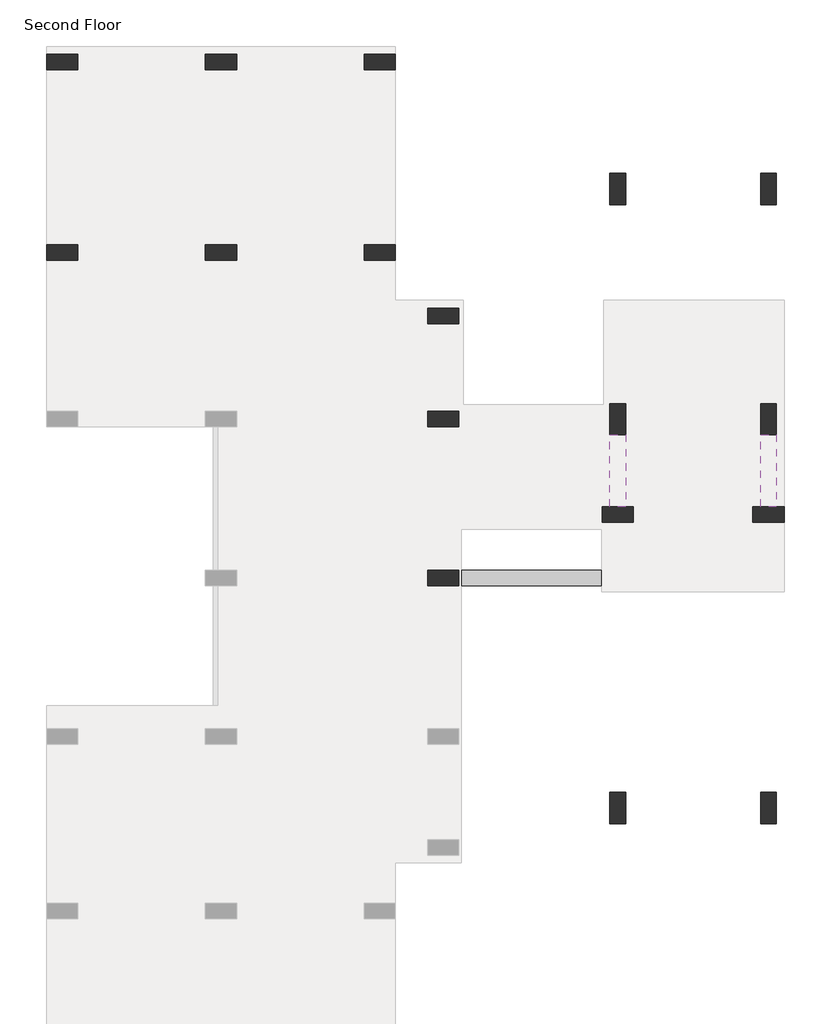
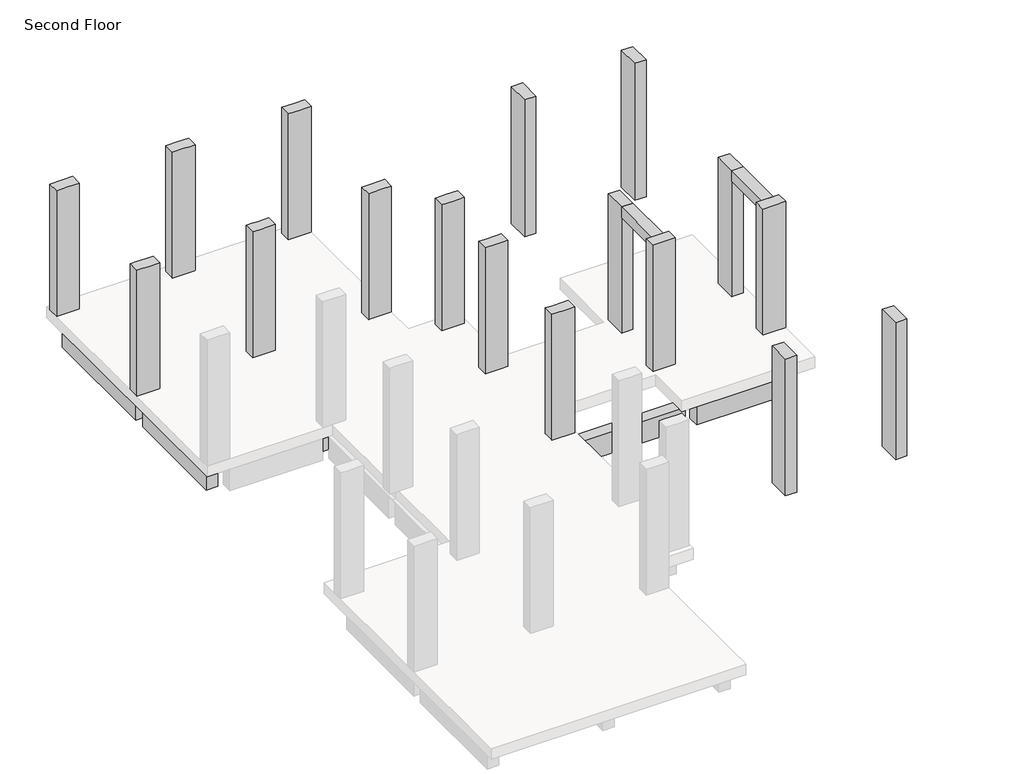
# One storey, part 2 of 2: 22 beams, 17 columns.
"""IFC4 building model written with IfcOpenShell, lengths in millimetres."""

import ifcopenshell
import ifcopenshell.guid

model = None  # the IFC model being written
_history = None  # IfcOwnerHistory: only IFC2X3 demands one
_inside = {}  # id of a spatial element -> (the spatial element, [elements in it])
_under = {}  # id of a project, library or spatial element -> (it, [spatial elements below it])
_declared = {}  # id of a project -> (the project, [libraries it declares])
_typed = {}  # id of a type object -> (the type object, [elements of that type])
_made_of = {}  # id of a material, layer set ... -> (it, [elements and type objects made of it])


def new_model(schema):
    """Start an empty IFC model of exactly this schema.

    Asked for "IFC4X3", IfcOpenShell would pick the latest addendum, in which some entities
    have other attributes; the version numbers below select the first issue.
    IFC2X3 requires an IfcOwnerHistory on every rooted entity: one is made here for all.
    """
    global model, _history
    if schema == "IFC4X3":
        model = ifcopenshell.file(schema_version=(4, 3, 0, 0))
    else:
        model = ifcopenshell.file(schema=schema)
    _inside.clear()
    _under.clear()
    _declared.clear()
    _typed.clear()
    _made_of.clear()
    _history = None
    if model.schema == "IFC2X3":
        org = make("IfcOrganization", Name="unknown")
        user = make(
            "IfcPersonAndOrganization",
            ThePerson=make("IfcPerson", FamilyName="unknown"),
            TheOrganization=org,
        )
        app = make(
            "IfcApplication",
            ApplicationDeveloper=org,
            Version="unknown",
            ApplicationFullName="unknown",
            ApplicationIdentifier="unknown",
        )
        _history = make(
            "IfcOwnerHistory",
            OwningUser=user,
            OwningApplication=app,
            ChangeAction="ADDED",
            CreationDate=0,
        )
    return model


def make(cls, **values):
    """One entity of the class cls with the attributes given. An attribute that is None is left unset."""
    return model.create_entity(
        cls, **{name: value for name, value in values.items() if value is not None}
    )


def rooted(cls, **values):
    """An entity with a GlobalId (a new one), such as an element, a storey or a relation."""
    return make(cls, GlobalId=ifcopenshell.guid.new(), OwnerHistory=_history, **values)


def si_unit(unit_type, name, prefix=None):
    """IfcSIUnit, for example si_unit("LENGTHUNIT", "METRE", prefix="MILLI")."""
    return make("IfcSIUnit", UnitType=unit_type, Prefix=prefix, Name=name)


def assignment(units):
    """IfcUnitAssignment: the units of a project."""
    return None if units is None else make("IfcUnitAssignment", Units=units)


def point(xyz):
    """IfcCartesianPoint."""
    return None if xyz is None else make("IfcCartesianPoint", Coordinates=xyz)


def direction(xyz):
    """IfcDirection."""
    return None if xyz is None else make("IfcDirection", DirectionRatios=xyz)


def frame(location, z_axis=None, x_axis=None):
    """IfcAxis2Placement3D, a coordinate frame: its origin and axes. An axis left out is left unset."""
    return make(
        "IfcAxis2Placement3D",
        Location=point(location),
        Axis=direction(z_axis),
        RefDirection=direction(x_axis),
    )


def origin():
    """The frame at (0, 0, 0) with its axes left unset."""
    return frame((0.0, 0.0, 0.0))


def place(relative_to, where):
    """IfcLocalPlacement: puts the frame where relative to a parent placement (None: the world)."""
    return make(
        "IfcLocalPlacement", PlacementRelTo=relative_to, RelativePlacement=where
    )


def context(
    kind, dimensions, precision=None, world=None, true_north=None, identifier=None
):
    """IfcGeometricRepresentationContext, for example the 3D "Model" context."""
    return make(
        "IfcGeometricRepresentationContext",
        ContextIdentifier=identifier,
        ContextType=kind,
        CoordinateSpaceDimension=dimensions,
        Precision=precision,
        WorldCoordinateSystem=world,
        TrueNorth=true_north,
    )


def project(units=None, contexts=None):
    """IfcProject with its units and contexts."""
    return rooted(
        "IfcProject",
        Name="project",
        RepresentationContexts=contexts,
        UnitsInContext=assignment(units),
    )


def spatial(cls, under=None, at=None, **own):
    """A site, building, storey or space (cls), placed at a placement, below another one or the project."""
    s = rooted(cls, ObjectPlacement=at, **own)
    if under is not None:
        _under.setdefault(under.id(), (under, []))[1].append(s)
    return s


def polyline(points):
    """IfcPolyline through the points."""
    return make("IfcPolyline", Points=[point(p) for p in points])


def outline(outer, holes=None, kind="AREA"):
    """IfcArbitraryClosedProfileDef: a profile drawn as a closed curve; with holes, ...WithVoids."""
    if holes is None:
        return make("IfcArbitraryClosedProfileDef", ProfileType=kind, OuterCurve=outer)
    return make(
        "IfcArbitraryProfileDefWithVoids",
        ProfileType=kind,
        OuterCurve=outer,
        InnerCurves=holes,
    )


def extrude(swept, where, along, depth):
    """IfcExtrudedAreaSolid: the profile swept, set in the frame where, extruded along a direction by depth."""
    return make(
        "IfcExtrudedAreaSolid",
        SweptArea=swept,
        Position=where,
        ExtrudedDirection=direction(along),
        Depth=depth,
    )


def faces_of(points, faces, orient=None, outer=None):
    """IfcFace entities. A face is a list of loops; a loop is a list of indices into points, from 0.

    orient and outer hold one flag for each loop. By default every Orientation is true, the
    first loop of a face is its IfcFaceOuterBound and the others are IfcFaceBound.
    """
    made = []
    for i, loops in enumerate(faces):
        bounds = []
        for j, loop in enumerate(loops):
            is_outer = j == 0 if outer is None else outer[i][j]
            bounds.append(
                make(
                    "IfcFaceOuterBound" if is_outer else "IfcFaceBound",
                    Bound=make("IfcPolyLoop", Polygon=[points[k] for k in loop]),
                    Orientation=True if orient is None else orient[i][j],
                )
            )
        made.append(make("IfcFace", Bounds=bounds))
    return made


def faceted_brep(points, faces, orient=None, outer=None, voids=None):
    """IfcFacetedBrep: a solid bounded by flat faces; with voids (closed shells), ...WithVoids."""
    shared = [point(p) for p in points]
    hull = make("IfcClosedShell", CfsFaces=faces_of(shared, faces, orient, outer))
    if voids is None:
        return make("IfcFacetedBrep", Outer=hull)
    return make(
        "IfcFacetedBrepWithVoids",
        Outer=hull,
        Voids=[
            make(cls, CfsFaces=faces_of(shared, fs, o, b)) for cls, fs, o, b in voids
        ],
    )


def shape(context_of_items, identifier, shape_type, items):
    """IfcShapeRepresentation: the items that make up one representation, for example the "Body"."""
    return make(
        "IfcShapeRepresentation",
        ContextOfItems=context_of_items,
        RepresentationIdentifier=identifier,
        RepresentationType=shape_type,
        Items=items,
    )


def made_of(thing, what):
    """Note that an element or type object is made of a material, layer set ...; save() writes the relation."""
    if what is not None:
        _made_of.setdefault(what.id(), (what, []))[1].append(thing)
    return thing


def element(
    cls,
    number,
    at=None,
    inside=None,
    cuts=None,
    type_object=None,
    material=None,
    context=None,
    identifier="Body",
    shape_type=None,
    held_by="IfcProductDefinitionShape",
    body=None,
    shapes=None,
    **own,
):
    """One element of the class cls, such as IfcWall. Its Tag is "e" and its number.

    at: its placement. inside: the storey or other place that contains it. cuts: it is an
    opening in that element (IfcRelVoidsElement). A single representation is given by context,
    identifier, shape_type and body (its items); several are given by shapes. held_by: the class
    of the entity that holds the representations. save() writes the other relations.
    """
    e = rooted(cls, Tag="e%d" % number, ObjectPlacement=at, **own)
    if body is not None:
        shapes = [shape(context, identifier, shape_type, body)]
    if shapes is not None:
        e.Representation = make(held_by, Representations=shapes)
    if inside is not None:
        _inside.setdefault(inside.id(), (inside, []))[1].append(e)
    if cuts is not None:
        rooted(
            "IfcRelVoidsElement", RelatingBuildingElement=cuts, RelatedOpeningElement=e
        )
    if type_object is not None:
        _typed.setdefault(type_object.id(), (type_object, []))[1].append(e)
    return made_of(e, material)


def aggregate(whole, parts):
    """IfcRelAggregates: a whole, such as a stair, and the parts it consists of."""
    return rooted("IfcRelAggregates", RelatingObject=whole, RelatedObjects=parts)


def save(model, path):
    """Write the relations noted so far, then the file.

    IfcRelAggregates (storeys below a building ...), IfcRelContainedInSpatialStructure (elements
    in a storey), IfcRelDefinesByType, IfcRelAssociatesMaterial and IfcRelDeclares: one each for
    every whole, place, type object, material and project.
    """
    for whole, parts in _under.values():
        aggregate(whole, parts)
    for where, things in _inside.values():
        rooted(
            "IfcRelContainedInSpatialStructure",
            RelatedElements=things,
            RelatingStructure=where,
        )
    for kind, things in _typed.values():
        rooted("IfcRelDefinesByType", RelatedObjects=things, RelatingType=kind)
    for what, things in _made_of.values():
        rooted("IfcRelAssociatesMaterial", RelatedObjects=things, RelatingMaterial=what)
    for by, libraries in _declared.values():
        rooted("IfcRelDeclares", RelatingContext=by, RelatedDefinitions=libraries)
    model.write(path)


model = new_model("IFC4")

# Units and contexts
model_context = context("Model", 3, world=origin())
ifc_project = project(units=[si_unit("LENGTHUNIT", "METRE", prefix="MILLI")], contexts=[model_context])

# Site, building, storey
site = spatial("IfcSite", under=ifc_project)
building = spatial("IfcBuilding", under=site)
storey = spatial("IfcBuildingStorey", under=building, Name="Second Floor", Elevation=3810.0)

# Beams
placement = place(None, origin())
element("IfcBeam", 1, ObjectType="M_Concrete-Rectangular Beam : 300 x 600mm", at=placement, inside=storey, context=model_context, shape_type="Brep", body=[
    faceted_brep([(-9783.3472303, 14876.016665, 3510.0), (-12831.3472303, 14876.016665, 3510.0), (-12831.3472303, 14726.016665, 3510.0), (-12831.3472303, 14576.016665, 3510.0), (-12681.3472303, 14576.016665, 3510.0), (-9933.3472303, 14576.016665, 3510.0), (-9783.3472303, 14576.016665, 3510.0), (-9783.3472303, 14726.016665, 3510.0), (-12831.3472303, 14576.016665, 3505.2), (-12531.3472303, 14576.016665, 3505.2), (-12531.3472303, 14576.016665, 2910.0), (-10083.3472303, 14576.016665, 2910.0), (-10083.3472303, 14576.016665, 3505.2), (-9783.3472303, 14576.016665, 3505.2), (-12531.3472303, 14876.016665, 2910.0), (-10083.3472303, 14876.016665, 2910.0), (-9783.3472303, 14876.016665, 3505.2), (-10083.3472303, 14876.016665, 3505.2), (-12531.3472303, 14876.016665, 3505.2), (-12831.3472303, 14876.016665, 3505.2), (-12831.3472303, 14726.016665, 3505.2), (-9783.3472303, 14726.016665, 3505.2)], [[[0, 1, 2, 3, 4, 5, 6, 7]], [[6, 5, 4, 3, 8, 9, 10, 11, 12, 13]], [[10, 14, 15, 11]], [[1, 0, 16, 17, 15, 14, 18, 19]], [[9, 18, 14, 10]], [[18, 9, 8, 20, 19]], [[17, 12, 11, 15]], [[12, 17, 16, 21, 13]], [[3, 2, 1, 19, 20, 8]], [[0, 7, 6, 13, 21, 16]]]),
])
element("IfcBeam", 2, ObjectType="M_Concrete-Rectangular Beam : 300 x 600mm", at=placement, inside=storey, context=model_context, shape_type="Brep", body=[
    faceted_brep([(-6735.3472303, 14876.016665, 3510.0), (-9783.3472303, 14876.016665, 3510.0), (-9783.3472303, 14726.016665, 3510.0), (-9633.3472303, 14726.016665, 3510.0), (-9633.3472303, 14576.016665, 3510.0), (-6885.3472303, 14576.016665, 3510.0), (-6735.3472303, 14576.016665, 3510.0), (-6735.3472303, 14726.016665, 3510.0), (-9483.3472303, 14576.016665, 3505.2), (-9483.3472303, 14576.016665, 2910.0), (-7035.3472303, 14576.016665, 2910.0), (-7035.3472303, 14576.016665, 3505.2), (-6735.3472303, 14576.016665, 3505.2), (-9633.3472303, 14576.016665, 3505.2), (-9483.3472303, 14876.016665, 2910.0), (-7035.3472303, 14876.016665, 2910.0), (-6735.3472303, 14876.016665, 3505.2), (-7035.3472303, 14876.016665, 3505.2), (-9483.3472303, 14876.016665, 3505.2), (-9783.3472303, 14876.016665, 3505.2), (-9633.3472303, 14726.016665, 3505.2), (-9783.3472303, 14726.016665, 3505.2), (-6735.3472303, 14726.016665, 3505.2)], [[[0, 1, 2, 3, 4, 5, 6, 7]], [[8, 9, 10, 11, 12, 6, 5, 4, 13]], [[9, 14, 15, 10]], [[1, 0, 16, 17, 15, 14, 18, 19]], [[8, 18, 14, 9]], [[18, 8, 13, 20, 21, 19]], [[17, 11, 10, 15]], [[11, 17, 16, 22, 12]], [[3, 20, 13, 4]], [[1, 19, 21, 2]], [[0, 7, 6, 12, 22, 16]], [[20, 3, 2, 21]]]),
])
element("IfcBeam", 3, ObjectType="M_Concrete-Rectangular Beam : 300 x 600mm", at=placement, inside=storey, context=model_context, shape_type="Brep", body=[
    faceted_brep([(-6585.3472303, 11069.016665, 3510.0), (-6585.3472303, 14726.016665, 3510.0), (-6735.3472303, 14726.016665, 3510.0), (-6735.3472303, 14576.016665, 3510.0), (-6885.3472303, 14576.016665, 3510.0), (-6885.3472303, 11219.016665, 3510.0), (-6885.3472303, 11069.016665, 3510.0), (-6735.3472303, 11069.016665, 3510.0), (-6885.3472303, 14576.016665, 2910.0), (-6885.3472303, 11219.016665, 2910.0), (-6885.3472303, 11219.016665, 3505.2), (-6885.3472303, 11069.016665, 3505.2), (-6585.3472303, 14576.016665, 2910.0), (-6585.3472303, 11219.016665, 2910.0), (-6585.3472303, 11069.016665, 3505.2), (-6585.3472303, 11219.016665, 3505.2), (-6585.3472303, 14576.016665, 3505.2), (-6585.3472303, 14726.016665, 3505.2), (-6735.3472303, 14576.016665, 3505.2), (-6735.3472303, 14726.016665, 3505.2), (-6735.3472303, 11069.016665, 3505.2)], [[[0, 1, 2, 3, 4, 5, 6, 7]], [[6, 5, 4, 8, 9, 10, 11]], [[8, 12, 13, 9]], [[1, 0, 14, 15, 13, 12, 16, 17]], [[4, 3, 18, 16, 12, 8]], [[16, 18, 19, 17]], [[15, 10, 9, 13]], [[10, 15, 14, 20, 11]], [[2, 1, 17, 19]], [[0, 7, 6, 11, 20, 14]], [[3, 2, 19, 18]]]),
])
element("IfcBeam", 4, ObjectType="M_Concrete-Rectangular Beam : 300 x 600mm", at=placement, inside=storey, context=model_context, shape_type="Brep", body=[
    faceted_brep([(-6585.3472303, 9700.016665, 3510.0), (-6585.3472303, 10000.016665, 3510.0), (-6585.3472303, 11069.016665, 3510.0), (-6735.3472303, 11069.016665, 3510.0), (-6735.3472303, 10919.016665, 3510.0), (-6885.3472303, 10919.016665, 3510.0), (-6885.3472303, 9700.016665, 3510.0), (-6885.3472303, 9700.016665, 2910.0), (-6885.3472303, 10919.016665, 2910.0), (-6585.3472303, 9700.016665, 2910.0), (-6585.3472303, 10919.016665, 2910.0), (-6585.3472303, 10000.016665, 2910.0), (-6585.3472303, 10919.016665, 3505.2), (-6585.3472303, 11069.016665, 3505.2), (-6735.3472303, 11069.016665, 3505.2), (-6735.3472303, 10919.016665, 3505.2)], [[[0, 1, 2, 3, 4, 5, 6]], [[7, 6, 5, 8]], [[9, 7, 8, 10, 11]], [[2, 1, 0, 9, 11, 10, 12, 13]], [[2, 13, 14, 3]], [[0, 6, 7, 9]], [[5, 4, 15, 12, 10, 8]], [[13, 12, 15, 14]], [[15, 4, 3, 14]]]),
])
element("IfcBeam", 5, ObjectType="M_Concrete-Rectangular Beam : 300 x 600mm", at=placement, inside=storey, context=model_context, shape_type="Brep", body=[
    faceted_brep([(-6585.3472303, 10000.016665, 3510.0), (-6585.3472303, 9700.016665, 3510.0), (-5666.3472303, 9700.016665, 3510.0), (-5516.3472303, 9700.016665, 3510.0), (-5516.3472303, 9850.016665, 3510.0), (-5516.3472303, 10000.016665, 3510.0), (-6585.3472303, 9700.016665, 2910.0), (-5816.3472303, 9700.016665, 2910.0), (-5816.3472303, 9700.016665, 3505.2), (-5516.3472303, 9700.016665, 3505.2), (-6585.3472303, 10000.016665, 2910.0), (-5816.3472303, 10000.016665, 2910.0), (-5516.3472303, 10000.016665, 3505.2), (-5816.3472303, 10000.016665, 3505.2), (-5516.3472303, 9850.016665, 3505.2)], [[[0, 1, 2, 3, 4, 5]], [[3, 2, 1, 6, 7, 8, 9]], [[6, 10, 11, 7]], [[10, 0, 5, 12, 13, 11]], [[1, 0, 10, 6]], [[13, 8, 7, 11]], [[8, 13, 12, 14, 9]], [[5, 4, 3, 9, 14, 12]]]),
])
element("IfcBeam", 6, ObjectType="M_Concrete-Rectangular Beam : 300 x 600mm", at=placement, inside=storey, context=model_context, shape_type="Brep", body=[
    faceted_brep([(-5366.3472303, 7869.016665, 3510.0), (-5366.3472303, 8019.016665, 3510.0), (-5366.3472303, 9850.016665, 3510.0), (-5516.3472303, 9850.016665, 3510.0), (-5516.3472303, 9700.016665, 3510.0), (-5666.3472303, 9700.016665, 3510.0), (-5666.3472303, 8019.016665, 3510.0), (-5666.3472303, 7869.016665, 3510.0), (-5516.3472303, 7869.016665, 3510.0), (-5666.3472303, 9700.016665, 2910.0), (-5666.3472303, 8019.016665, 2910.0), (-5666.3472303, 8019.016665, 3505.2), (-5666.3472303, 7869.016665, 3505.2), (-5366.3472303, 9700.016665, 2910.0), (-5366.3472303, 8019.016665, 2910.0), (-5366.3472303, 7869.016665, 3505.2), (-5366.3472303, 8019.016665, 3505.2), (-5366.3472303, 9700.016665, 3505.2), (-5366.3472303, 9850.016665, 3505.2), (-5516.3472303, 9700.016665, 3505.2), (-5516.3472303, 9850.016665, 3505.2), (-5516.3472303, 7869.016665, 3505.2)], [[[0, 1, 2, 3, 4, 5, 6, 7, 8]], [[7, 6, 5, 9, 10, 11, 12]], [[9, 13, 14, 10]], [[2, 1, 0, 15, 16, 14, 13, 17, 18]], [[5, 4, 19, 17, 13, 9]], [[17, 19, 20, 18]], [[16, 11, 10, 14]], [[11, 16, 15, 21, 12]], [[3, 2, 18, 20]], [[0, 8, 7, 12, 21, 15]], [[4, 3, 20, 19]]]),
])
element("IfcBeam", 7, ObjectType="M_Concrete-Rectangular Beam : 300 x 600mm", at=placement, inside=storey, context=model_context, shape_type="Brep", body=[
    faceted_brep([(-5366.3472303, 4821.016665, 3510.0), (-5366.3472303, 4971.016665, 3510.0), (-5366.3472303, 7719.016665, 3510.0), (-5366.3472303, 7869.016665, 3510.0), (-5516.3472303, 7869.016665, 3510.0), (-5516.3472303, 7719.016665, 3510.0), (-5666.3472303, 7719.016665, 3510.0), (-5666.3472303, 4971.016665, 3510.0), (-5666.3472303, 4821.016665, 3510.0), (-5516.3472303, 4821.016665, 3510.0), (-5666.3472303, 4971.016665, 2910.0), (-5666.3472303, 4971.016665, 3505.2), (-5666.3472303, 4821.016665, 3505.2), (-5666.3472303, 7719.016665, 2910.0), (-5366.3472303, 4971.016665, 2910.0), (-5366.3472303, 7719.016665, 2910.0), (-5366.3472303, 4821.016665, 3505.2), (-5366.3472303, 4971.016665, 3505.2), (-5366.3472303, 7719.016665, 3505.2), (-5366.3472303, 7869.016665, 3505.2), (-5516.3472303, 7719.016665, 3505.2), (-5516.3472303, 7869.016665, 3505.2), (-5516.3472303, 4821.016665, 3505.2)], [[[0, 1, 2, 3, 4, 5, 6, 7, 8, 9]], [[10, 11, 12, 8, 7, 6, 13]], [[14, 10, 13, 15]], [[3, 2, 1, 0, 16, 17, 14, 15, 18, 19]], [[6, 5, 20, 18, 15, 13]], [[19, 18, 20, 21]], [[17, 11, 10, 14]], [[11, 17, 16, 22, 12]], [[3, 19, 21, 4]], [[0, 9, 8, 12, 22, 16]], [[20, 5, 4, 21]]]),
])
element("IfcBeam", 8, ObjectType="M_Concrete-Rectangular Beam : 300 x 600mm", at=placement, inside=storey, context=model_context, shape_type="Brep", body=[
    faceted_brep([(-9783.3472303, 4671.016665, 3510.0), (-9633.3472303, 4671.016665, 3510.0), (-5666.3472303, 4671.016665, 3510.0), (-5516.3472303, 4671.016665, 3510.0), (-5516.3472303, 4821.016665, 3510.0), (-5666.3472303, 4821.016665, 3510.0), (-5666.3472303, 4971.016665, 3510.0), (-9633.3472303, 4971.016665, 3510.0), (-9783.3472303, 4971.016665, 3510.0), (-9783.3472303, 4821.016665, 3510.0), (-9483.3472303, 4971.016665, 2910.0), (-9483.3472303, 4971.016665, 3505.2), (-9783.3472303, 4971.016665, 3505.2), (-5666.3472303, 4971.016665, 3505.2), (-5816.3472303, 4971.016665, 3505.2), (-5816.3472303, 4971.016665, 2910.0), (-9483.3472303, 4671.016665, 2910.0), (-5816.3472303, 4671.016665, 2910.0), (-9783.3472303, 4671.016665, 3505.2), (-9483.3472303, 4671.016665, 3505.2), (-5816.3472303, 4671.016665, 3505.2), (-5516.3472303, 4671.016665, 3505.2), (-5666.3472303, 4821.016665, 3505.2), (-9783.3472303, 4821.016665, 3505.2), (-5516.3472303, 4821.016665, 3505.2)], [[[0, 1, 2, 3, 4, 5, 6, 7, 8, 9]], [[10, 11, 12, 8, 7, 6, 13, 14, 15]], [[16, 10, 15, 17]], [[3, 2, 1, 0, 18, 19, 16, 17, 20, 21]], [[6, 5, 22, 13]], [[19, 11, 10, 16]], [[11, 19, 18, 23, 12]], [[14, 20, 17, 15]], [[20, 14, 13, 22, 24, 21]], [[0, 9, 8, 12, 23, 18]], [[4, 3, 21, 24]], [[5, 4, 24, 22]]]),
])
element("IfcBeam", 9, ObjectType="M_Concrete-Rectangular Beam : 300 x 600mm", at=placement, inside=storey, context=model_context, shape_type="Brep", body=[
    faceted_brep([(-5666.3472303, 7869.016665, 3510.0), (-5666.3472303, 8019.016665, 3510.0), (-9633.3472303, 8019.016665, 3510.0), (-9783.3472303, 8019.016665, 3510.0), (-9783.3472303, 7869.016665, 3510.0), (-9633.3472303, 7869.016665, 3510.0), (-9633.3472303, 7719.016665, 3510.0), (-5666.3472303, 7719.016665, 3510.0), (-5516.3472303, 7719.016665, 3510.0), (-5516.3472303, 7869.016665, 3510.0), (-9633.3472303, 7719.016665, 3505.2), (-9483.3472303, 7719.016665, 3505.2), (-9483.3472303, 7719.016665, 2910.0), (-5816.3472303, 7719.016665, 2910.0), (-5816.3472303, 7719.016665, 3505.2), (-5516.3472303, 7719.016665, 3505.2), (-9483.3472303, 8019.016665, 2910.0), (-5816.3472303, 8019.016665, 2910.0), (-9483.3472303, 8019.016665, 3505.2), (-9783.3472303, 8019.016665, 3505.2), (-5666.3472303, 8019.016665, 3505.2), (-5816.3472303, 8019.016665, 3505.2), (-5666.3472303, 7869.016665, 3505.2), (-9633.3472303, 7869.016665, 3505.2), (-9783.3472303, 7869.016665, 3505.2), (-5516.3472303, 7869.016665, 3505.2)], [[[0, 1, 2, 3, 4, 5, 6, 7, 8, 9]], [[6, 10, 11, 12, 13, 14, 15, 8, 7]], [[12, 16, 17, 13]], [[16, 18, 19, 3, 2, 1, 20, 21, 17]], [[1, 0, 22, 20]], [[6, 5, 23, 10]], [[11, 18, 16, 12]], [[18, 11, 10, 23, 24, 19]], [[21, 14, 13, 17]], [[14, 21, 20, 22, 25, 15]], [[4, 3, 19, 24]], [[9, 8, 15, 25]], [[0, 9, 25, 22]], [[5, 4, 24, 23]]]),
])
element("IfcBeam", 10, ObjectType="M_Concrete-Rectangular Beam : 300 x 600mm", at=placement, inside=storey, context=model_context, shape_type="Brep", body=[
    faceted_brep([(-9933.3472303, 11069.016665, 3510.0), (-9933.3472303, 10919.016665, 3510.0), (-9933.3472303, 8019.016665, 3510.0), (-9933.3472303, 7869.016665, 3510.0), (-9783.3472303, 7869.016665, 3510.0), (-9783.3472303, 8019.016665, 3510.0), (-9633.3472303, 8019.016665, 3510.0), (-9633.3472303, 10919.016665, 3510.0), (-9633.3472303, 11069.016665, 3510.0), (-9783.3472303, 11069.016665, 3510.0), (-9633.3472303, 10919.016665, 2910.0), (-9633.3472303, 10919.016665, 3505.2), (-9633.3472303, 11069.016665, 3505.2), (-9633.3472303, 8019.016665, 2910.0), (-9933.3472303, 10919.016665, 2910.0), (-9933.3472303, 8019.016665, 2910.0), (-9933.3472303, 11069.016665, 3505.2), (-9933.3472303, 10919.016665, 3505.2), (-9933.3472303, 8019.016665, 3505.2), (-9933.3472303, 7869.016665, 3505.2), (-9783.3472303, 8019.016665, 3505.2), (-9783.3472303, 11069.016665, 3505.2), (-9783.3472303, 7869.016665, 3505.2)], [[[0, 1, 2, 3, 4, 5, 6, 7, 8, 9]], [[10, 11, 12, 8, 7, 6, 13]], [[14, 10, 13, 15]], [[3, 2, 1, 0, 16, 17, 14, 15, 18, 19]], [[6, 5, 20, 18, 15, 13]], [[17, 11, 10, 14]], [[11, 17, 16, 21, 12]], [[18, 20, 22, 19]], [[0, 9, 8, 12, 21, 16]], [[4, 3, 19, 22]], [[5, 4, 22, 20]]]),
])
element("IfcBeam", 11, ObjectType="M_Concrete-Rectangular Beam : 300 x 600mm", at=placement, inside=storey, context=model_context, shape_type="Brep", body=[
    faceted_brep([(-6885.3472303, 11069.016665, 3510.0), (-6885.3472303, 11219.016665, 3510.0), (-9633.3472303, 11219.016665, 3510.0), (-9783.3472303, 11219.016665, 3510.0), (-9783.3472303, 11069.016665, 3510.0), (-9633.3472303, 11069.016665, 3510.0), (-9633.3472303, 10919.016665, 3510.0), (-6885.3472303, 10919.016665, 3510.0), (-6735.3472303, 10919.016665, 3510.0), (-6735.3472303, 11069.016665, 3510.0), (-9633.3472303, 10919.016665, 3505.2), (-9483.3472303, 10919.016665, 3505.2), (-9483.3472303, 10919.016665, 2910.0), (-7035.3472303, 10919.016665, 2910.0), (-7035.3472303, 10919.016665, 3505.2), (-6735.3472303, 10919.016665, 3505.2), (-9483.3472303, 11219.016665, 2910.0), (-7035.3472303, 11219.016665, 2910.0), (-9483.3472303, 11219.016665, 3505.2), (-9783.3472303, 11219.016665, 3505.2), (-6885.3472303, 11219.016665, 3505.2), (-7035.3472303, 11219.016665, 3505.2), (-6885.3472303, 11069.016665, 3505.2), (-9633.3472303, 11069.016665, 3505.2), (-9783.3472303, 11069.016665, 3505.2), (-6735.3472303, 11069.016665, 3505.2)], [[[0, 1, 2, 3, 4, 5, 6, 7, 8, 9]], [[6, 10, 11, 12, 13, 14, 15, 8, 7]], [[12, 16, 17, 13]], [[16, 18, 19, 3, 2, 1, 20, 21, 17]], [[1, 0, 22, 20]], [[6, 5, 23, 10]], [[11, 18, 16, 12]], [[18, 11, 10, 23, 24, 19]], [[21, 14, 13, 17]], [[14, 21, 20, 22, 25, 15]], [[4, 3, 19, 24]], [[9, 8, 15, 25]], [[0, 9, 25, 22]], [[5, 4, 24, 23]]]),
])
element("IfcBeam", 12, ObjectType="M_Concrete-Rectangular Beam : 300 x 600mm", at=placement, inside=storey, context=model_context, shape_type="Brep", body=[
    faceted_brep([(-9783.3472303, 14576.016665, 3510.0), (-9933.3472303, 14576.016665, 3510.0), (-9933.3472303, 11219.016665, 3510.0), (-9933.3472303, 11069.016665, 3510.0), (-9783.3472303, 11069.016665, 3510.0), (-9783.3472303, 11219.016665, 3510.0), (-9633.3472303, 11219.016665, 3510.0), (-9633.3472303, 14576.016665, 3510.0), (-9633.3472303, 14726.016665, 3510.0), (-9783.3472303, 14726.016665, 3510.0), (-9633.3472303, 11219.016665, 2910.0), (-9633.3472303, 14576.016665, 2910.0), (-9633.3472303, 14576.016665, 3505.2), (-9633.3472303, 14726.016665, 3505.2), (-9933.3472303, 11219.016665, 2910.0), (-9933.3472303, 14576.016665, 2910.0), (-9933.3472303, 11219.016665, 3505.2), (-9933.3472303, 11069.016665, 3505.2), (-9783.3472303, 14576.016665, 3505.2), (-9783.3472303, 11219.016665, 3505.2), (-9783.3472303, 14726.016665, 3505.2), (-9783.3472303, 11069.016665, 3505.2)], [[[0, 1, 2, 3, 4, 5, 6, 7, 8, 9]], [[8, 7, 6, 10, 11, 12, 13]], [[10, 14, 15, 11]], [[3, 2, 1, 15, 14, 16, 17]], [[1, 0, 18, 12, 11, 15]], [[6, 5, 19, 16, 14, 10]], [[12, 18, 20, 13]], [[16, 19, 21, 17]], [[9, 8, 13, 20]], [[4, 3, 17, 21]], [[0, 9, 20, 18]], [[5, 4, 21, 19]]]),
])
element("IfcBeam", 13, ObjectType="M_Concrete-Rectangular Beam : 300 x 600mm", at=placement, inside=storey, context=model_context, shape_type="Brep", body=[
    faceted_brep([(-12981.3472303, 14726.016665, 3510.0), (-12981.3472303, 11069.016665, 3510.0), (-12831.3472303, 11069.016665, 3510.0), (-12681.3472303, 11069.016665, 3510.0), (-12681.3472303, 11219.016665, 3510.0), (-12681.3472303, 14576.016665, 3510.0), (-12831.3472303, 14576.016665, 3510.0), (-12831.3472303, 14726.016665, 3510.0), (-12981.3472303, 14726.016665, 3505.2), (-12981.3472303, 14576.016665, 3505.2), (-12981.3472303, 14576.016665, 2910.0), (-12981.3472303, 11219.016665, 2910.0), (-12981.3472303, 11219.016665, 3505.2), (-12981.3472303, 11069.016665, 3505.2), (-12681.3472303, 14576.016665, 2910.0), (-12681.3472303, 11219.016665, 2910.0), (-12681.3472303, 11069.016665, 3505.2), (-12681.3472303, 11219.016665, 3505.2), (-12831.3472303, 14576.016665, 3505.2), (-12831.3472303, 14726.016665, 3505.2), (-12831.3472303, 11069.016665, 3505.2)], [[[0, 1, 2, 3, 4, 5, 6, 7]], [[1, 0, 8, 9, 10, 11, 12, 13]], [[10, 14, 15, 11]], [[5, 4, 3, 16, 17, 15, 14]], [[6, 5, 14, 10, 9, 18]], [[18, 9, 8, 19]], [[17, 12, 11, 15]], [[12, 17, 16, 20, 13]], [[0, 7, 19, 8]], [[3, 2, 1, 13, 20, 16]], [[7, 6, 18, 19]]]),
])
element("IfcBeam", 14, ObjectType="M_Concrete-Rectangular Beam : 300 x 600mm", at=placement, inside=storey, context=model_context, shape_type="Brep", body=[
    faceted_brep([(-12681.3472303, 11219.016665, 3510.0), (-12681.3472303, 11069.016665, 3510.0), (-12831.3472303, 11069.016665, 3510.0), (-12831.3472303, 10919.016665, 3510.0), (-12681.3472303, 10919.016665, 3510.0), (-9933.3472303, 10919.016665, 3510.0), (-9933.3472303, 11069.016665, 3510.0), (-9933.3472303, 11219.016665, 3510.0), (-12531.3472303, 10919.016665, 3505.2), (-12531.3472303, 10919.016665, 2910.0), (-10083.3472303, 10919.016665, 2910.0), (-10083.3472303, 10919.016665, 3505.2), (-9933.3472303, 10919.016665, 3505.2), (-12831.3472303, 10919.016665, 3505.2), (-12531.3472303, 11219.016665, 2910.0), (-10083.3472303, 11219.016665, 2910.0), (-12681.3472303, 11219.016665, 3505.2), (-9933.3472303, 11219.016665, 3505.2), (-10083.3472303, 11219.016665, 3505.2), (-12531.3472303, 11219.016665, 3505.2), (-9933.3472303, 11069.016665, 3505.2), (-12681.3472303, 11069.016665, 3505.2), (-12831.3472303, 11069.016665, 3505.2)], [[[0, 1, 2, 3, 4, 5, 6, 7]], [[8, 9, 10, 11, 12, 5, 4, 3, 13]], [[9, 14, 15, 10]], [[16, 0, 7, 17, 18, 15, 14, 19]], [[7, 6, 5, 12, 20, 17]], [[1, 0, 16, 21]], [[8, 19, 14, 9]], [[19, 8, 13, 22, 21, 16]], [[18, 11, 10, 15]], [[11, 18, 17, 20, 12]], [[3, 2, 22, 13]], [[2, 1, 21, 22]]]),
])
element("IfcBeam", 15, ObjectType="M_Concrete-Rectangular Beam : 300 x 600mm", at=placement, inside=storey, context=model_context, shape_type="Brep", body=[
    faceted_brep([(-12981.3472303, 11069.016665, 3510.0), (-12981.3472303, 7869.016665, 3510.0), (-12831.3472303, 7869.016665, 3510.0), (-12681.3472303, 7869.016665, 3510.0), (-12681.3472303, 8019.016665, 3510.0), (-12681.3472303, 10919.016665, 3510.0), (-12831.3472303, 10919.016665, 3510.0), (-12831.3472303, 11069.016665, 3510.0), (-12981.3472303, 11069.016665, 3505.2), (-12981.3472303, 10919.016665, 3505.2), (-12981.3472303, 10919.016665, 2910.0), (-12981.3472303, 8019.016665, 2910.0), (-12981.3472303, 8019.016665, 3505.2), (-12981.3472303, 7869.016665, 3505.2), (-12681.3472303, 10919.016665, 2910.0), (-12681.3472303, 8019.016665, 2910.0), (-12681.3472303, 7869.016665, 3505.2), (-12681.3472303, 8019.016665, 3505.2), (-12831.3472303, 10919.016665, 3505.2), (-12831.3472303, 11069.016665, 3505.2), (-12831.3472303, 7869.016665, 3505.2)], [[[0, 1, 2, 3, 4, 5, 6, 7]], [[1, 0, 8, 9, 10, 11, 12, 13]], [[10, 14, 15, 11]], [[5, 4, 3, 16, 17, 15, 14]], [[6, 5, 14, 10, 9, 18]], [[18, 9, 8, 19]], [[17, 12, 11, 15]], [[12, 17, 16, 20, 13]], [[0, 7, 19, 8]], [[3, 2, 1, 13, 20, 16]], [[7, 6, 18, 19]]]),
])
element("IfcBeam", 16, ObjectType="M_Concrete-Rectangular Beam : 300 x 600mm", at=placement, inside=storey, context=model_context, shape_type="Brep", body=[
    faceted_brep([(-5366.3472303, 1773.016665, 3510.0), (-5366.3472303, 4671.016665, 3510.0), (-5366.3472303, 4821.016665, 3510.0), (-5516.3472303, 4821.016665, 3510.0), (-5516.3472303, 4671.016665, 3510.0), (-5666.3472303, 4671.016665, 3510.0), (-5666.3472303, 1923.016665, 3510.0), (-5666.3472303, 1773.016665, 3510.0), (-5516.3472303, 1773.016665, 3510.0), (-5666.3472303, 4671.016665, 2910.0), (-5666.3472303, 1923.016665, 2910.0), (-5666.3472303, 1923.016665, 3505.2), (-5666.3472303, 1773.016665, 3505.2), (-5366.3472303, 4671.016665, 2910.0), (-5366.3472303, 1923.016665, 2910.0), (-5366.3472303, 1773.016665, 3505.2), (-5366.3472303, 1923.016665, 3505.2), (-5366.3472303, 4671.016665, 3505.2), (-5366.3472303, 4821.016665, 3505.2), (-5516.3472303, 4671.016665, 3505.2), (-5516.3472303, 4821.016665, 3505.2), (-5516.3472303, 1773.016665, 3505.2)], [[[0, 1, 2, 3, 4, 5, 6, 7, 8]], [[7, 6, 5, 9, 10, 11, 12]], [[9, 13, 14, 10]], [[2, 1, 0, 15, 16, 14, 13, 17, 18]], [[5, 4, 19, 17, 13, 9]], [[17, 19, 20, 18]], [[16, 11, 10, 14]], [[11, 16, 15, 21, 12]], [[3, 2, 18, 20]], [[0, 8, 7, 12, 21, 15]], [[4, 3, 20, 19]]]),
])
element("IfcBeam", 17, ObjectType="M_Concrete-Rectangular Beam : 300 x 600mm", at=placement, inside=storey, context=model_context, shape_type="Brep", body=[
    faceted_brep([(-2313.3472303, 8019.016665, 3510.0), (-5366.3472303, 8019.016665, 3510.0), (-5366.3472303, 7869.016665, 3510.0), (-5366.3472303, 7719.016665, 3510.0), (-2313.3472303, 7719.016665, 3510.0), (-5366.3472303, 7719.016665, 3505.2), (-5216.3472303, 7719.016665, 3505.2), (-5216.3472303, 7719.016665, 2910.0), (-2313.3472303, 7719.016665, 2910.0), (-2313.3472303, 8019.016665, 2910.0), (-5216.3472303, 8019.016665, 2910.0), (-5216.3472303, 8019.016665, 3505.2), (-5366.3472303, 8019.016665, 3505.2), (-5366.3472303, 7869.016665, 3505.2)], [[[0, 1, 2, 3, 4]], [[4, 3, 5, 6, 7, 8]], [[9, 8, 7, 10]], [[1, 0, 9, 10, 11, 12]], [[0, 4, 8, 9]], [[3, 2, 1, 12, 13, 5]], [[6, 11, 10, 7]], [[11, 6, 5, 13, 12]]]),
])
element("IfcBeam", 18, ObjectType="M_Concrete-Rectangular Beam : 300 x 600mm", at=placement, inside=storey, context=model_context, shape_type="Brep", body=[
    faceted_brep([(-2313.3472303, 4671.016665, 3510.0), (-2313.3472303, 4971.016665, 3510.0), (-5366.3472303, 4971.016665, 3510.0), (-5366.3472303, 4821.016665, 3510.0), (-5366.3472303, 4671.016665, 3510.0), (-2313.3472303, 4671.016665, 2910.0), (-5366.3472303, 4671.016665, 3505.2), (-5216.3472303, 4671.016665, 3505.2), (-5216.3472303, 4671.016665, 2910.0), (-2313.3472303, 4971.016665, 2910.0), (-5216.3472303, 4971.016665, 2910.0), (-5216.3472303, 4971.016665, 3505.2), (-5366.3472303, 4971.016665, 3505.2), (-5366.3472303, 4821.016665, 3505.2)], [[[0, 1, 2, 3, 4]], [[5, 0, 4, 6, 7, 8]], [[9, 5, 8, 10]], [[1, 9, 10, 11, 12, 2]], [[1, 0, 5, 9]], [[2, 12, 13, 6, 4, 3]], [[7, 11, 10, 8]], [[11, 7, 6, 13, 12]]]),
])
element("IfcBeam", 19, ObjectType="M_Concrete-Rectangular Beam : 300 x 600mm", at=placement, inside=storey, context=model_context, shape_type="SweptSolid", body=[
    extrude(outline(polyline([(-2013.3472303, 7719.016665), (-2013.3472303, 8019.016665), (582.6527697, 8019.016665), (582.6527697, 7719.016665), (-2013.3472303, 7719.016665)])), frame((0.0, 0.0, 2910.0), z_axis=(0.0, 0.0, 1.0), x_axis=(1.0, 0.0, 0.0)), (0.0, 0.0, 1.0), 600.0),
])
element("IfcBeam", 20, ObjectType="M_Concrete-Rectangular Beam : 300 x 600mm", at=placement, inside=storey, context=model_context, shape_type="SweptSolid", body=[
    extrude(outline(polyline([(582.6527697, 4971.016665), (582.6527697, 4671.016665), (-2013.3472303, 4671.016665), (-2013.3472303, 4971.016665), (582.6527697, 4971.016665)])), frame((0.0, 0.0, 2910.0), z_axis=(0.0, 0.0, 1.0), x_axis=(1.0, 0.0, 0.0)), (0.0, 0.0, 1.0), 600.0),
])
element("IfcBeam", 21, ObjectType="M_Concrete-Rectangular Beam : 300 x 600mm", at=placement, inside=storey, context=model_context, shape_type="SweptSolid", body=[
    extrude(outline(polyline([(-2313.3472303, 7569.016665), (-2013.3472303, 7569.016665), (-2013.3472303, 6190.016665), (-2313.3472303, 6190.016665), (-2313.3472303, 7569.016665)])), frame((0.0, 0.0, 7020.0), z_axis=(0.0, 0.0, 1.0), x_axis=(1.0, 0.0, 0.0)), (0.0, 0.0, 1.0), 300.0),
])
element("IfcBeam", 22, ObjectType="M_Concrete-Rectangular Beam : 300 x 600mm", at=placement, inside=storey, context=model_context, shape_type="SweptSolid", body=[
    extrude(outline(polyline([(582.6527697, 7569.016665), (882.6527697, 7569.016665), (882.6527697, 6190.016665), (582.6527697, 6190.016665), (582.6527697, 7569.016665)])), frame((0.0, 0.0, 7020.0), z_axis=(0.0, 0.0, 1.0), x_axis=(1.0, 0.0, 0.0)), (0.0, 0.0, 1.0), 300.0),
])

# Columns
element("IfcColumn", 23, ObjectType="M_Concrete-Rectangular-Column : 300 x 600mm", at=placement, inside=storey, context=model_context, shape_type="Brep", body=[
    faceted_brep([(-13131.3472303, 14876.016665, 3810.0), (-12531.3472303, 14876.016665, 3810.0), (-12531.3472303, 14576.016665, 3810.0), (-13131.3472303, 14576.016665, 3810.0), (-13131.3472303, 14876.016665, 7315.2), (-12831.3472303, 14876.016665, 7315.2), (-12531.3472303, 14876.016665, 7315.2), (-12531.3472303, 14876.016665, 6720.0), (-12531.3472303, 14576.016665, 7315.2), (-12531.3472303, 14576.016665, 6720.0), (-12831.3472303, 14576.016665, 7315.2), (-12981.3472303, 14576.016665, 7315.2), (-13131.3472303, 14576.016665, 7315.2)], [[[0, 1, 2, 3]], [[4, 5, 6, 7, 1, 0]], [[6, 8, 9, 2, 1, 7]], [[8, 10, 11, 12, 3, 2, 9]], [[12, 4, 0, 3]], [[4, 12, 11, 10, 8, 6, 5]]]),
])
element("IfcColumn", 24, ObjectType="M_Concrete-Rectangular-Column : 300 x 600mm", at=placement, inside=storey, context=model_context, shape_type="Brep", body=[
    faceted_brep([(-10083.3472303, 14876.016665, 3810.0), (-9483.3472303, 14876.016665, 3810.0), (-9483.3472303, 14576.016665, 3810.0), (-10083.3472303, 14576.016665, 3810.0), (-10083.3472303, 14876.016665, 7315.2), (-9783.3472303, 14876.016665, 7315.2), (-9483.3472303, 14876.016665, 7315.2), (-9483.3472303, 14876.016665, 6720.0), (-10083.3472303, 14876.016665, 6720.0), (-9483.3472303, 14576.016665, 7315.2), (-9483.3472303, 14576.016665, 6720.0), (-9633.3472303, 14576.016665, 7315.2), (-9783.3472303, 14576.016665, 7315.2), (-10083.3472303, 14576.016665, 7315.2), (-10083.3472303, 14576.016665, 6720.0)], [[[0, 1, 2, 3]], [[4, 5, 6, 7, 1, 0, 8]], [[6, 9, 10, 2, 1, 7]], [[9, 11, 12, 13, 14, 3, 2, 10]], [[13, 4, 8, 0, 3, 14]], [[4, 13, 12, 11, 9, 6, 5]]]),
])
element("IfcColumn", 25, ObjectType="M_Concrete-Rectangular-Column : 300 x 600mm", at=placement, inside=storey, context=model_context, shape_type="Brep", body=[
    faceted_brep([(-7035.3472303, 14876.016665, 3810.0), (-6435.3472303, 14876.016665, 3810.0), (-6435.3472303, 14576.016665, 3810.0), (-7035.3472303, 14576.016665, 3810.0), (-7035.3472303, 14876.016665, 7315.2), (-6735.3472303, 14876.016665, 7315.2), (-6435.3472303, 14876.016665, 7315.2), (-7035.3472303, 14876.016665, 6720.0), (-6435.3472303, 14576.016665, 7315.2), (-6585.3472303, 14576.016665, 7315.2), (-6735.3472303, 14576.016665, 7315.2), (-7035.3472303, 14576.016665, 7315.2), (-7035.3472303, 14576.016665, 6720.0)], [[[0, 1, 2, 3]], [[4, 5, 6, 1, 0, 7]], [[6, 8, 2, 1]], [[8, 9, 10, 11, 12, 3, 2]], [[11, 4, 7, 0, 3, 12]], [[4, 11, 10, 9, 8, 6, 5]]]),
])
element("IfcColumn", 26, ObjectType="M_Concrete-Rectangular-Column : 300 x 600mm", at=placement, inside=storey, context=model_context, shape_type="Brep", body=[
    faceted_brep([(-13131.3472303, 11219.016665, 3810.0), (-12531.3472303, 11219.016665, 3810.0), (-12531.3472303, 10919.016665, 3810.0), (-13131.3472303, 10919.016665, 3810.0), (-13131.3472303, 11219.016665, 7315.2), (-12981.3472303, 11219.016665, 7315.2), (-12681.3472303, 11219.016665, 7315.2), (-12531.3472303, 11219.016665, 7315.2), (-12531.3472303, 11219.016665, 6720.0), (-12531.3472303, 10919.016665, 7315.2), (-12531.3472303, 10919.016665, 6720.0), (-12831.3472303, 10919.016665, 7315.2), (-12981.3472303, 10919.016665, 7315.2), (-13131.3472303, 10919.016665, 7315.2)], [[[0, 1, 2, 3]], [[4, 5, 6, 7, 8, 1, 0]], [[7, 9, 10, 2, 1, 8]], [[9, 11, 12, 13, 3, 2, 10]], [[13, 4, 0, 3]], [[4, 13, 12, 11, 9, 7, 6, 5]]]),
])
element("IfcColumn", 27, ObjectType="M_Concrete-Rectangular-Column : 300 x 600mm", at=placement, inside=storey, context=model_context, shape_type="Brep", body=[
    faceted_brep([(-10083.3472303, 11219.016665, 3810.0), (-9483.3472303, 11219.016665, 3810.0), (-9483.3472303, 10919.016665, 3810.0), (-10083.3472303, 10919.016665, 3810.0), (-10083.3472303, 11219.016665, 7315.2), (-9933.3472303, 11219.016665, 7315.2), (-9783.3472303, 11219.016665, 7315.2), (-9483.3472303, 11219.016665, 7315.2), (-9483.3472303, 11219.016665, 6720.0), (-10083.3472303, 11219.016665, 6720.0), (-9483.3472303, 10919.016665, 7315.2), (-9483.3472303, 10919.016665, 6720.0), (-9633.3472303, 10919.016665, 7315.2), (-9933.3472303, 10919.016665, 7315.2), (-10083.3472303, 10919.016665, 7315.2), (-10083.3472303, 10919.016665, 6720.0)], [[[0, 1, 2, 3]], [[4, 5, 6, 7, 8, 1, 0, 9]], [[7, 10, 11, 2, 1, 8]], [[10, 12, 13, 14, 15, 3, 2, 11]], [[14, 4, 9, 0, 3, 15]], [[4, 14, 13, 12, 10, 7, 6, 5]]]),
])
element("IfcColumn", 28, ObjectType="M_Concrete-Rectangular-Column : 300 x 600mm", at=placement, inside=storey, context=model_context, shape_type="Brep", body=[
    faceted_brep([(-7035.3472303, 11219.016665, 3810.0), (-6435.3472303, 11219.016665, 3810.0), (-6435.3472303, 10919.016665, 3810.0), (-7035.3472303, 10919.016665, 3810.0), (-7035.3472303, 11219.016665, 7315.2), (-6885.3472303, 11219.016665, 7315.2), (-6585.3472303, 11219.016665, 7315.2), (-6435.3472303, 11219.016665, 7315.2), (-7035.3472303, 11219.016665, 6720.0), (-6435.3472303, 10919.016665, 7315.2), (-6585.3472303, 10919.016665, 7315.2), (-6735.3472303, 10919.016665, 7315.2), (-7035.3472303, 10919.016665, 7315.2), (-7035.3472303, 10919.016665, 6720.0)], [[[0, 1, 2, 3]], [[4, 5, 6, 7, 1, 0, 8]], [[7, 9, 2, 1]], [[9, 10, 11, 12, 13, 3, 2]], [[12, 4, 8, 0, 3, 13]], [[4, 12, 11, 10, 9, 7, 6, 5]]]),
])
element("IfcColumn", 29, ObjectType="M_Concrete-Rectangular-Column : 300 x 600mm", at=placement, inside=storey, context=model_context, shape_type="Brep", body=[
    faceted_brep([(-5816.3472303, 10000.016665, 3810.0), (-5216.3472303, 10000.016665, 3810.0), (-5216.3472303, 9700.016665, 3810.0), (-5816.3472303, 9700.016665, 3810.0), (-5816.3472303, 10000.016665, 7315.2), (-5516.3472303, 10000.016665, 7315.2), (-5216.3472303, 10000.016665, 7315.2), (-5816.3472303, 10000.016665, 6720.0), (-5216.3472303, 9700.016665, 7315.2), (-5366.3472303, 9700.016665, 7315.2), (-5516.3472303, 9700.016665, 7315.2), (-5816.3472303, 9700.016665, 7315.2), (-5816.3472303, 9700.016665, 6720.0)], [[[0, 1, 2, 3]], [[4, 5, 6, 1, 0, 7]], [[6, 8, 2, 1]], [[8, 9, 10, 11, 12, 3, 2]], [[11, 4, 7, 0, 3, 12]], [[4, 11, 10, 9, 8, 6, 5]]]),
])
element("IfcColumn", 30, ObjectType="M_Concrete-Rectangular-Column : 300 x 600mm", at=placement, inside=storey, context=model_context, shape_type="Brep", body=[
    faceted_brep([(-5816.3472303, 8019.016665, 3810.0), (-5216.3472303, 8019.016665, 3810.0), (-5216.3472303, 7719.016665, 3810.0), (-5816.3472303, 7719.016665, 3810.0), (-5816.3472303, 8019.016665, 7315.2), (-5666.3472303, 8019.016665, 7315.2), (-5366.3472303, 8019.016665, 7315.2), (-5216.3472303, 8019.016665, 7315.2), (-5216.3472303, 8019.016665, 6720.0), (-5816.3472303, 8019.016665, 6720.0), (-5216.3472303, 7719.016665, 7315.2), (-5216.3472303, 7719.016665, 6720.0), (-5366.3472303, 7719.016665, 7315.2), (-5516.3472303, 7719.016665, 7315.2), (-5816.3472303, 7719.016665, 7315.2), (-5816.3472303, 7719.016665, 6720.0)], [[[0, 1, 2, 3]], [[4, 5, 6, 7, 8, 1, 0, 9]], [[7, 10, 11, 2, 1, 8]], [[10, 12, 13, 14, 15, 3, 2, 11]], [[14, 4, 9, 0, 3, 15]], [[4, 14, 13, 12, 10, 7, 6, 5]]]),
])
element("IfcColumn", 31, ObjectType="M_Concrete-Rectangular-Column : 300 x 600mm", at=placement, inside=storey, context=model_context, shape_type="SweptSolid", body=[
    extrude(outline(polyline([(-2313.3472303, 7569.016665), (-2313.3472303, 8169.016665), (-2013.3472303, 8169.016665), (-2013.3472303, 7569.016665), (-2313.3472303, 7569.016665)])), frame((0.0, 0.0, 3810.0), z_axis=(0.0, 0.0, 1.0), x_axis=(1.0, 0.0, 0.0)), (0.0, 0.0, 1.0), 3510.0),
])
element("IfcColumn", 32, ObjectType="M_Concrete-Rectangular-Column : 300 x 600mm", at=placement, inside=storey, context=model_context, shape_type="SweptSolid", body=[
    extrude(outline(polyline([(582.6527697, 7569.016665), (582.6527697, 8169.016665), (882.6527697, 8169.016665), (882.6527697, 7569.016665), (582.6527697, 7569.016665)])), frame((0.0, 0.0, 3810.0), z_axis=(0.0, 0.0, 1.0), x_axis=(1.0, 0.0, 0.0)), (0.0, 0.0, 1.0), 3510.0),
])
element("IfcColumn", 33, ObjectType="M_Concrete-Rectangular-Column : 300 x 600mm", at=placement, inside=storey, context=model_context, shape_type="Brep", body=[
    faceted_brep([(-5816.3472303, 4971.016665, 3810.0), (-5216.3472303, 4971.016665, 3810.0), (-5216.3472303, 4671.016665, 3810.0), (-5816.3472303, 4671.016665, 3810.0), (-5816.3472303, 4971.016665, 7315.2), (-5666.3472303, 4971.016665, 7315.2), (-5366.3472303, 4971.016665, 7315.2), (-5216.3472303, 4971.016665, 7315.2), (-5216.3472303, 4971.016665, 6720.0), (-5816.3472303, 4971.016665, 6720.0), (-5216.3472303, 4671.016665, 7315.2), (-5216.3472303, 4671.016665, 6720.0), (-5366.3472303, 4671.016665, 7315.2), (-5516.3472303, 4671.016665, 7315.2), (-5816.3472303, 4671.016665, 7315.2), (-5816.3472303, 4671.016665, 6720.0)], [[[0, 1, 2, 3]], [[4, 5, 6, 7, 8, 1, 0, 9]], [[7, 10, 11, 2, 1, 8]], [[10, 12, 13, 14, 15, 3, 2, 11]], [[14, 4, 9, 0, 3, 15]], [[4, 14, 13, 12, 10, 7, 6, 5]]]),
])
element("IfcColumn", 34, ObjectType="M_Concrete-Rectangular-Column : 300 x 600mm", at=placement, inside=storey, context=model_context, shape_type="SweptSolid", body=[
    extrude(outline(polyline([(-2313.3472303, 11988.016665), (-2313.3472303, 12588.016665), (-2013.3472303, 12588.016665), (-2013.3472303, 11988.016665), (-2313.3472303, 11988.016665)])), frame((0.0, 0.0, 3810.0), z_axis=(0.0, 0.0, 1.0), x_axis=(1.0, 0.0, 0.0)), (0.0, 0.0, 1.0), 3810.0),
])
element("IfcColumn", 35, ObjectType="M_Concrete-Rectangular-Column : 300 x 600mm", at=placement, inside=storey, context=model_context, shape_type="SweptSolid", body=[
    extrude(outline(polyline([(582.6527697, 11988.016665), (582.6527697, 12588.016665), (882.6527697, 12588.016665), (882.6527697, 11988.016665), (582.6527697, 11988.016665)])), frame((0.0, 0.0, 3810.0), z_axis=(0.0, 0.0, 1.0), x_axis=(1.0, 0.0, 0.0)), (0.0, 0.0, 1.0), 3810.0),
])
element("IfcColumn", 36, ObjectType="M_Concrete-Rectangular-Column : 300 x 600mm", at=placement, inside=storey, context=model_context, shape_type="SweptSolid", body=[
    extrude(outline(polyline([(-2313.3472303, 101.016665), (-2313.3472303, 701.016665), (-2013.3472303, 701.016665), (-2013.3472303, 101.016665), (-2313.3472303, 101.016665)])), frame((0.0, 0.0, 3810.0), z_axis=(0.0, 0.0, 1.0), x_axis=(1.0, 0.0, 0.0)), (0.0, 0.0, 1.0), 3810.0),
])
element("IfcColumn", 37, ObjectType="M_Concrete-Rectangular-Column : 300 x 600mm", at=placement, inside=storey, context=model_context, shape_type="SweptSolid", body=[
    extrude(outline(polyline([(582.6527697, 101.016665), (582.6527697, 701.016665), (882.6527697, 701.016665), (882.6527697, 101.016665), (582.6527697, 101.016665)])), frame((0.0, 0.0, 3810.0), z_axis=(0.0, 0.0, 1.0), x_axis=(1.0, 0.0, 0.0)), (0.0, 0.0, 1.0), 3810.0),
])
element("IfcColumn", 38, ObjectType="M_Concrete-Rectangular-Column : 300 x 600mm", at=placement, inside=storey, context=model_context, shape_type="SweptSolid", body=[
    extrude(outline(polyline([(-1863.3472303, 5890.016665), (-2463.3472303, 5890.016665), (-2463.3472303, 6190.016665), (-1863.3472303, 6190.016665), (-1863.3472303, 5890.016665)])), frame((0.0, 0.0, 3810.0), z_axis=(0.0, 0.0, 1.0), x_axis=(1.0, 0.0, 0.0)), (0.0, 0.0, 1.0), 3510.0),
])
element("IfcColumn", 39, ObjectType="M_Concrete-Rectangular-Column : 300 x 600mm", at=placement, inside=storey, context=model_context, shape_type="SweptSolid", body=[
    extrude(outline(polyline([(1032.6527697, 5890.016665), (432.6527697, 5890.016665), (432.6527697, 6190.016665), (1032.6527697, 6190.016665), (1032.6527697, 5890.016665)])), frame((0.0, 0.0, 3810.0), z_axis=(0.0, 0.0, 1.0), x_axis=(1.0, 0.0, 0.0)), (0.0, 0.0, 1.0), 3510.0),
])

save(model, "model.ifc")
